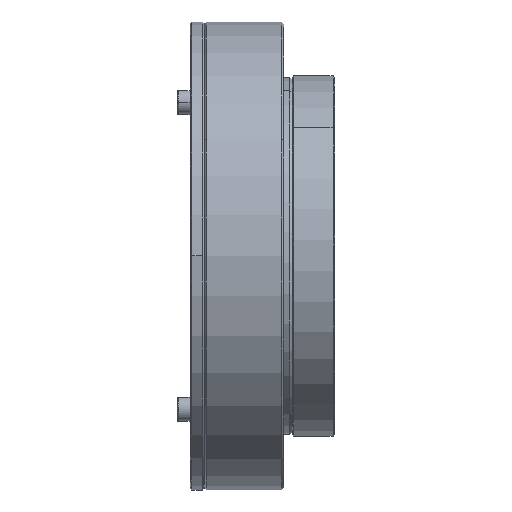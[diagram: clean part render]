
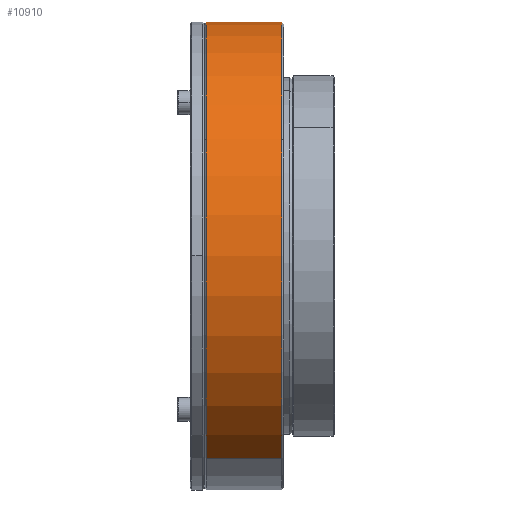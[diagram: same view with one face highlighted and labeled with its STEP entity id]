
A CAD part, top view. The second image highlights one B-rep face of the part: STEP entity #10910.
In plain terms, the highlighted cylindrical face has radius 55 mm (diameter 110 mm), a partial arc.
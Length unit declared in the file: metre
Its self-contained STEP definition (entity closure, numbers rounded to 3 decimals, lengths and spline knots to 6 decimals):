
#42 = CIRCLE ( 'NONE', #1673, 0.055 ) ;
#397 = ORIENTED_EDGE ( 'NONE', *, *, #32463, .T. ) ;
#781 = CIRCLE ( 'NONE', #22550, 0.055 ) ;
#1673 = AXIS2_PLACEMENT_3D ( 'NONE', #30273, #4546, #14967 ) ;
#2368 = VERTEX_POINT ( 'NONE', #3242 ) ;
#2578 = FACE_OUTER_BOUND ( 'NONE', #16693, .T. ) ;
#3045 = AXIS2_PLACEMENT_3D ( 'NONE', #26086, #30707, #7348 ) ;
#3242 = CARTESIAN_POINT ( 'NONE',  ( -0.0014, 0.0275, 0.047631 ) ) ;
#4005 = EDGE_CURVE ( 'NONE', #4663, #27335, #4714, .T. ) ;
#4084 = EDGE_CURVE ( 'NONE', #6477, #2368, #42, .T. ) ;
#4546 = DIRECTION ( 'NONE',  ( -1., 0., 0. ) ) ;
#4663 = VERTEX_POINT ( 'NONE', #25978 ) ;
#4714 = LINE ( 'NONE', #17339, #7660 ) ;
#4972 = DIRECTION ( 'NONE',  ( 1., 0., 0. ) ) ;
#5074 = ORIENTED_EDGE ( 'NONE', *, *, #17092, .T. ) ;
#6214 = ORIENTED_EDGE ( 'NONE', *, *, #4084, .T. ) ;
#6477 = VERTEX_POINT ( 'NONE', #19941 ) ;
#6609 = CARTESIAN_POINT ( 'NONE',  ( -0.024867, -0.047631, 0.0275 ) ) ;
#6991 = AXIS2_PLACEMENT_3D ( 'NONE', #19616, #17076, #19452 ) ;
#7348 = DIRECTION ( 'NONE',  ( 0., 0.866, -0.5 ) ) ;
#7632 = ORIENTED_EDGE ( 'NONE', *, *, #4005, .T. ) ;
#7660 = VECTOR ( 'NONE', #27890, 1. ) ;
#8628 = CIRCLE ( 'NONE', #6991, 0.055 ) ;
#10910 = ADVANCED_FACE ( 'NONE', ( #2578 ), #15713, .T. ) ;
#12978 = DIRECTION ( 'NONE',  ( 0., 0.866, -0.5 ) ) ;
#13299 = EDGE_CURVE ( 'NONE', #2368, #4663, #8628, .T. ) ;
#14967 = DIRECTION ( 'NONE',  ( 0., 0.866, -0.5 ) ) ;
#15713 = CYLINDRICAL_SURFACE ( 'NONE', #3045, 0.055 ) ;
#16007 = ORIENTED_EDGE ( 'NONE', *, *, #28304, .F. ) ;
#16693 = EDGE_LOOP ( 'NONE', ( #16007, #6214, #20612, #7632, #397, #5074 ) ) ;
#17076 = DIRECTION ( 'NONE',  ( -1., 0., 0. ) ) ;
#17092 = EDGE_CURVE ( 'NONE', #24490, #18394, #17665, .T. ) ;
#17339 = CARTESIAN_POINT ( 'NONE',  ( -0.024867, 0.047631, -0.0275 ) ) ;
#17665 = CIRCLE ( 'NONE', #32916, 0.055 ) ;
#18394 = VERTEX_POINT ( 'NONE', #22920 ) ;
#19452 = DIRECTION ( 'NONE',  ( 0., 0.866, -0.5 ) ) ;
#19616 = CARTESIAN_POINT ( 'NONE',  ( -0.0014, 0., 0. ) ) ;
#19941 = CARTESIAN_POINT ( 'NONE',  ( -0.0014, -0.047631, 0.0275 ) ) ;
#20612 = ORIENTED_EDGE ( 'NONE', *, *, #13299, .T. ) ;
#21552 = CARTESIAN_POINT ( 'NONE',  ( -0.0191, 0.047631, -0.0275 ) ) ;
#22550 = AXIS2_PLACEMENT_3D ( 'NONE', #22811, #28085, #25535 ) ;
#22811 = CARTESIAN_POINT ( 'NONE',  ( -0.0191, 0., 0. ) ) ;
#22920 = CARTESIAN_POINT ( 'NONE',  ( -0.0191, -0.047631, 0.0275 ) ) ;
#24490 = VERTEX_POINT ( 'NONE', #26132 ) ;
#25535 = DIRECTION ( 'NONE',  ( 0., 0.866, -0.5 ) ) ;
#25978 = CARTESIAN_POINT ( 'NONE',  ( -0.0014, 0.047631, -0.0275 ) ) ;
#26086 = CARTESIAN_POINT ( 'NONE',  ( -0.024867, 0., 0. ) ) ;
#26132 = CARTESIAN_POINT ( 'NONE',  ( -0.0191, 0.0275, 0.047631 ) ) ;
#26241 = LINE ( 'NONE', #6609, #28373 ) ;
#27335 = VERTEX_POINT ( 'NONE', #21552 ) ;
#27890 = DIRECTION ( 'NONE',  ( -1., 0., 0. ) ) ;
#28085 = DIRECTION ( 'NONE',  ( 1., 0., 0. ) ) ;
#28304 = EDGE_CURVE ( 'NONE', #6477, #18394, #26241, .T. ) ;
#28373 = VECTOR ( 'NONE', #32877, 1. ) ;
#30273 = CARTESIAN_POINT ( 'NONE',  ( -0.0014, 0., 0. ) ) ;
#30707 = DIRECTION ( 'NONE',  ( -1., 0., 0. ) ) ;
#32463 = EDGE_CURVE ( 'NONE', #27335, #24490, #781, .T. ) ;
#32877 = DIRECTION ( 'NONE',  ( -1., 0., 0. ) ) ;
#32916 = AXIS2_PLACEMENT_3D ( 'NONE', #33618, #4972, #12978 ) ;
#33618 = CARTESIAN_POINT ( 'NONE',  ( -0.0191, 0., 0. ) ) ;
